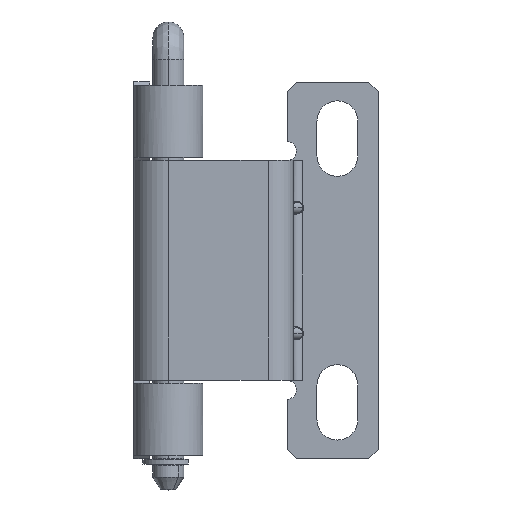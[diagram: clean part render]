
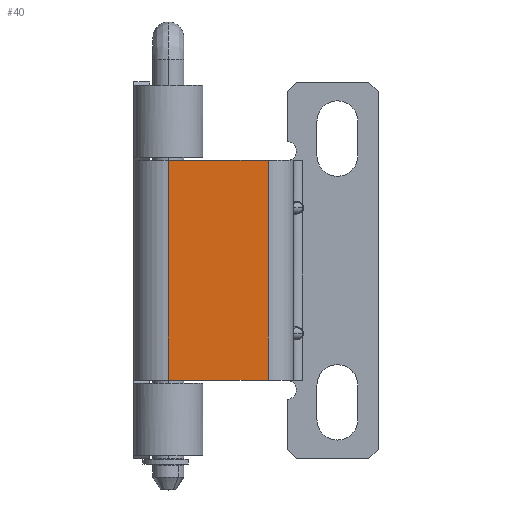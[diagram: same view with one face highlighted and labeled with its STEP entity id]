
A CAD part, top view. The second image highlights one B-rep face of the part: STEP entity #40.
In plain terms, the highlighted planar face has unit normal (0, 0, 1).
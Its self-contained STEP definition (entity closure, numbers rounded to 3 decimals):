
#40=ADVANCED_FACE('',(#166),#2001,.T.);
#166=FACE_OUTER_BOUND('',#292,.T.);
#292=EDGE_LOOP('',(#447,#448,#449,#450));
#447=ORIENTED_EDGE('',*,*,#1076,.T.);
#448=ORIENTED_EDGE('',*,*,#1077,.T.);
#449=ORIENTED_EDGE('',*,*,#1078,.T.);
#450=ORIENTED_EDGE('',*,*,#1072,.F.);
#1072=EDGE_CURVE('',#1802,#1803,#1579,.T.);
#1076=EDGE_CURVE('',#1802,#1806,#1581,.T.);
#1077=EDGE_CURVE('',#1806,#1807,#1582,.T.);
#1078=EDGE_CURVE('',#1807,#1803,#1583,.T.);
#1579=B_SPLINE_CURVE_WITH_KNOTS('',1,(#3364,#3365),.UNSPECIFIED.,.F.,.F.,
(2,2),(0.,35.),.UNSPECIFIED.);
#1581=B_SPLINE_CURVE_WITH_KNOTS('',1,(#3374,#3375),.UNSPECIFIED.,.F.,.F.,
(2,2),(0.,15.9),.UNSPECIFIED.);
#1582=B_SPLINE_CURVE_WITH_KNOTS('',1,(#3376,#3377),.UNSPECIFIED.,.F.,.F.,
(2,2),(0.,35.),.UNSPECIFIED.);
#1583=B_SPLINE_CURVE_WITH_KNOTS('',1,(#3378,#3379),.UNSPECIFIED.,.F.,.F.,
(2,2),(0.,15.9),.UNSPECIFIED.);
#1802=VERTEX_POINT('',#3197);
#1803=VERTEX_POINT('',#3198);
#1806=VERTEX_POINT('',#3201);
#1807=VERTEX_POINT('',#3202);
#2001=PLANE('',#2219);
#2219=AXIS2_PLACEMENT_3D('',#3150,#2425,$);
#2425=DIRECTION('',(0.,0.,1.));
#3150=CARTESIAN_POINT('',(-9.901,-21.012,23.097));
#3197=CARTESIAN_POINT('',(-8.299,-17.5,23.097));
#3198=CARTESIAN_POINT('',(-8.299,17.5,23.097));
#3201=CARTESIAN_POINT('',(7.601,-17.5,23.097));
#3202=CARTESIAN_POINT('',(7.601,17.5,23.097));
#3364=CARTESIAN_POINT('',(-8.299,-17.5,23.097));
#3365=CARTESIAN_POINT('',(-8.299,17.5,23.097));
#3374=CARTESIAN_POINT('',(-8.299,-17.5,23.097));
#3375=CARTESIAN_POINT('',(7.601,-17.5,23.097));
#3376=CARTESIAN_POINT('',(7.601,-17.5,23.097));
#3377=CARTESIAN_POINT('',(7.601,17.5,23.097));
#3378=CARTESIAN_POINT('',(7.601,17.5,23.097));
#3379=CARTESIAN_POINT('',(-8.299,17.5,23.097));
